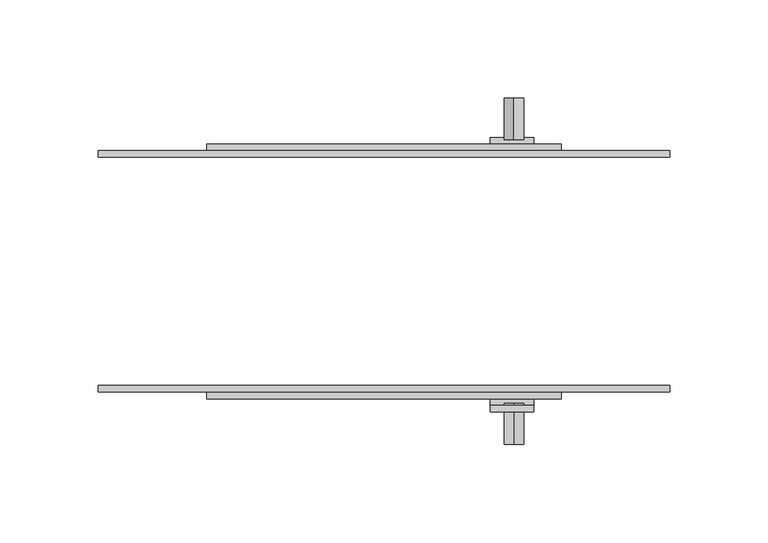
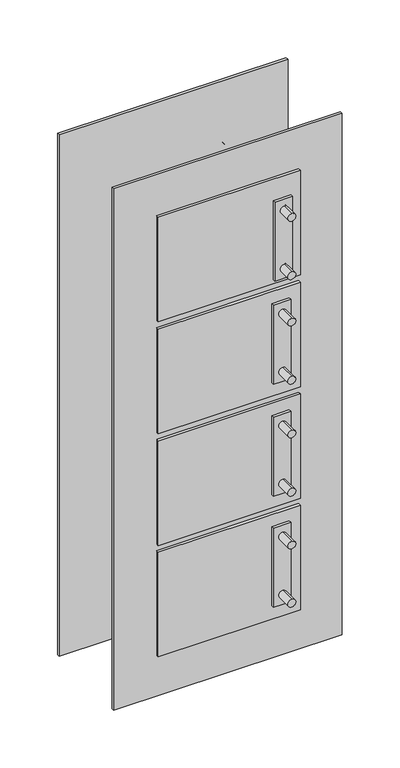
"""IFC4 building model written with IfcOpenShell, lengths in millimetres: proxy geometry, Distribution_Socket_4_rotated : Distribution_Socket_4_rotated."""

from ifc_helpers import new_model, si_unit, point, frame, frame_2d, origin, place, context, project, spatial, polyline, circle_curve, trimmed, segment, composite_curve, outline, extrude, source, transform, mapped, element, save


def electrical_equipment_2ad26752(model_context):
    return source(origin(), model_context, "Body", "SweptSolid", [
        extrude(outline(composite_curve([segment(trimmed(circle_curve(frame_2d((38.3010249, 65.938994)), 5.0), [point((43.3010249, 65.938994))], [point((33.3010249, 65.938994))], False, "CARTESIAN"), True, "CONTINUOUS"), segment(trimmed(circle_curve(frame_2d((38.3010249, 65.938994)), 5.0), [point((33.3010249, 65.938994))], [point((43.3010249, 65.938994))], False, "CARTESIAN"), True, "CONTINUOUS")], self_intersect=False)), frame((0.0, 67.0, 0.0), z_axis=(0.0, 1.0, 0.0), x_axis=(0.0, 0.0, 1.0)), (0.0, 0.0, 1.0), 20.9),
        extrude(outline(composite_curve([segment(trimmed(circle_curve(frame_2d((-39.6946618, 65.938994)), 5.0), [point((-34.6946618, 65.938994))], [point((-44.6946618, 65.938994))], False, "CARTESIAN"), True, "CONTINUOUS"), segment(trimmed(circle_curve(frame_2d((-39.6946618, 65.938994)), 5.0), [point((-44.6946618, 65.938994))], [point((-34.6946618, 65.938994))], False, "CARTESIAN"), True, "CONTINUOUS")], self_intersect=False)), frame((0.0, 67.0, 0.0), z_axis=(0.0, 1.0, 0.0), x_axis=(0.0, 0.0, 1.0)), (0.0, 0.0, 1.0), 20.9),
        extrude(outline(composite_curve([segment(trimmed(circle_curve(frame_2d((-110.4592553, 65.938994)), 5.0), [point((-105.4592553, 65.938994))], [point((-115.4592553, 65.938994))], False, "CARTESIAN"), True, "CONTINUOUS"), segment(trimmed(circle_curve(frame_2d((-110.4592553, 65.938994)), 5.0), [point((-115.4592553, 65.938994))], [point((-105.4592553, 65.938994))], False, "CARTESIAN"), True, "CONTINUOUS")], self_intersect=False)), frame((0.0, 67.0, 0.0), z_axis=(0.0, 1.0, 0.0), x_axis=(0.0, 0.0, 1.0)), (0.0, 0.0, 1.0), 20.9),
        extrude(outline(composite_curve([segment(trimmed(circle_curve(frame_2d((-188.454942, 65.938994)), 5.0), [point((-183.454942, 65.938994))], [point((-193.454942, 65.938994))], False, "CARTESIAN"), True, "CONTINUOUS"), segment(trimmed(circle_curve(frame_2d((-188.454942, 65.938994)), 5.0), [point((-193.454942, 65.938994))], [point((-183.454942, 65.938994))], False, "CARTESIAN"), True, "CONTINUOUS")], self_intersect=False)), frame((0.0, 67.0, 0.0), z_axis=(0.0, 1.0, 0.0), x_axis=(0.0, 0.0, 1.0)), (0.0, 0.0, 1.0), 20.9),
        extrude(outline(composite_curve([segment(trimmed(circle_curve(frame_2d((188.301055, 65.938994)), 5.0), [point((193.301055, 65.938994))], [point((183.301055, 65.938994))], False, "CARTESIAN"), True, "CONTINUOUS"), segment(trimmed(circle_curve(frame_2d((188.301055, 65.938994)), 5.0), [point((183.301055, 65.938994))], [point((193.301055, 65.938994))], False, "CARTESIAN"), True, "CONTINUOUS")], self_intersect=False)), frame((0.0, 67.0, 0.0), z_axis=(0.0, 1.0, 0.0), x_axis=(0.0, 0.0, 1.0)), (0.0, 0.0, 1.0), 20.9),
        extrude(outline(composite_curve([segment(trimmed(circle_curve(frame_2d((110.3053683, 65.938994)), 5.0), [point((115.3053683, 65.938994))], [point((105.3053683, 65.938994))], False, "CARTESIAN"), True, "CONTINUOUS"), segment(trimmed(circle_curve(frame_2d((110.3053683, 65.938994)), 5.0), [point((105.3053683, 65.938994))], [point((115.3053683, 65.938994))], False, "CARTESIAN"), True, "CONTINUOUS")], self_intersect=False)), frame((0.0, 67.0, 0.0), z_axis=(0.0, 1.0, 0.0), x_axis=(0.0, 0.0, 1.0)), (0.0, 0.0, 1.0), 20.9),
        extrude(outline(composite_curve([segment(trimmed(circle_curve(frame_2d((328.4414034, 65.938994)), 5.0), [point((333.4414034, 65.938994))], [point((323.4414034, 65.938994))], False, "CARTESIAN"), True, "CONTINUOUS"), segment(trimmed(circle_curve(frame_2d((328.4414034, 65.938994)), 5.0), [point((323.4414034, 65.938994))], [point((333.4414034, 65.938994))], False, "CARTESIAN"), True, "CONTINUOUS")], self_intersect=False)), frame((0.0, 67.0, 0.0), z_axis=(0.0, 1.0, 0.0), x_axis=(0.0, 0.0, 1.0)), (0.0, 0.0, 1.0), 20.9),
        extrude(outline(composite_curve([segment(trimmed(circle_curve(frame_2d((250.4457168, 65.938994)), 5.0), [point((255.4457168, 65.938994))], [point((245.4457168, 65.938994))], False, "CARTESIAN"), True, "CONTINUOUS"), segment(trimmed(circle_curve(frame_2d((250.4457168, 65.938994)), 5.0), [point((245.4457168, 65.938994))], [point((255.4457168, 65.938994))], False, "CARTESIAN"), True, "CONTINUOUS")], self_intersect=False)), frame((0.0, 67.0, 0.0), z_axis=(0.0, 1.0, 0.0), x_axis=(0.0, 0.0, 1.0)), (0.0, 0.0, 1.0), 20.9),
        extrude(outline(composite_curve([segment(trimmed(circle_curve(frame_2d((38.3010249, 65.938994)), 5.0), [point((43.3010249, 65.938994))], [point((33.3010249, 65.938994))], False, "CARTESIAN"), True, "CONTINUOUS"), segment(trimmed(circle_curve(frame_2d((38.3010249, 65.938994)), 5.0), [point((33.3010249, 65.938994))], [point((43.3010249, 65.938994))], False, "CARTESIAN"), True, "CONTINUOUS")], self_intersect=False)), frame((0.0, -87.9, 0.0), z_axis=(0.0, 1.0, 0.0), x_axis=(0.0, 0.0, 1.0)), (0.0, 0.0, 1.0), 20.9),
        extrude(outline(composite_curve([segment(trimmed(circle_curve(frame_2d((-39.6946618, 65.938994)), 5.0), [point((-34.6946618, 65.938994))], [point((-44.6946618, 65.938994))], False, "CARTESIAN"), True, "CONTINUOUS"), segment(trimmed(circle_curve(frame_2d((-39.6946618, 65.938994)), 5.0), [point((-44.6946618, 65.938994))], [point((-34.6946618, 65.938994))], False, "CARTESIAN"), True, "CONTINUOUS")], self_intersect=False)), frame((0.0, -87.9, 0.0), z_axis=(0.0, 1.0, 0.0), x_axis=(0.0, 0.0, 1.0)), (0.0, 0.0, 1.0), 20.9),
        extrude(outline(composite_curve([segment(trimmed(circle_curve(frame_2d((-110.4592553, 65.938994)), 5.0), [point((-105.4592553, 65.938994))], [point((-115.4592553, 65.938994))], False, "CARTESIAN"), True, "CONTINUOUS"), segment(trimmed(circle_curve(frame_2d((-110.4592553, 65.938994)), 5.0), [point((-115.4592553, 65.938994))], [point((-105.4592553, 65.938994))], False, "CARTESIAN"), True, "CONTINUOUS")], self_intersect=False)), frame((0.0, -87.9, 0.0), z_axis=(0.0, 1.0, 0.0), x_axis=(0.0, 0.0, 1.0)), (0.0, 0.0, 1.0), 20.9),
        extrude(outline(composite_curve([segment(trimmed(circle_curve(frame_2d((-188.454942, 65.938994)), 5.0), [point((-183.454942, 65.938994))], [point((-193.454942, 65.938994))], False, "CARTESIAN"), True, "CONTINUOUS"), segment(trimmed(circle_curve(frame_2d((-188.454942, 65.938994)), 5.0), [point((-193.454942, 65.938994))], [point((-183.454942, 65.938994))], False, "CARTESIAN"), True, "CONTINUOUS")], self_intersect=False)), frame((0.0, -87.9, 0.0), z_axis=(0.0, 1.0, 0.0), x_axis=(0.0, 0.0, 1.0)), (0.0, 0.0, 1.0), 20.9),
        extrude(outline(composite_curve([segment(trimmed(circle_curve(frame_2d((328.4414034, 65.938994)), 5.0), [point((333.4414034, 65.938994))], [point((323.4414034, 65.938994))], False, "CARTESIAN"), True, "CONTINUOUS"), segment(trimmed(circle_curve(frame_2d((328.4414034, 65.938994)), 5.0), [point((323.4414034, 65.938994))], [point((333.4414034, 65.938994))], False, "CARTESIAN"), True, "CONTINUOUS")], self_intersect=False)), frame((0.0, -87.9, 0.0), z_axis=(0.0, 1.0, 0.0), x_axis=(0.0, 0.0, 1.0)), (0.0, 0.0, 1.0), 20.9),
        extrude(outline(composite_curve([segment(trimmed(circle_curve(frame_2d((250.4457168, 65.938994)), 5.0), [point((255.4457168, 65.938994))], [point((245.4457168, 65.938994))], False, "CARTESIAN"), True, "CONTINUOUS"), segment(trimmed(circle_curve(frame_2d((250.4457168, 65.938994)), 5.0), [point((245.4457168, 65.938994))], [point((255.4457168, 65.938994))], False, "CARTESIAN"), True, "CONTINUOUS")], self_intersect=False)), frame((0.0, -87.9, 0.0), z_axis=(0.0, 1.0, 0.0), x_axis=(0.0, 0.0, 1.0)), (0.0, 0.0, 1.0), 20.9),
        extrude(outline(composite_curve([segment(trimmed(circle_curve(frame_2d((188.301055, 65.938994)), 5.0), [point((193.301055, 65.938994))], [point((183.301055, 65.938994))], False, "CARTESIAN"), True, "CONTINUOUS"), segment(trimmed(circle_curve(frame_2d((188.301055, 65.938994)), 5.0), [point((183.301055, 65.938994))], [point((193.301055, 65.938994))], False, "CARTESIAN"), True, "CONTINUOUS")], self_intersect=False)), frame((0.0, -87.9, 0.0), z_axis=(0.0, 1.0, 0.0), x_axis=(0.0, 0.0, 1.0)), (0.0, 0.0, 1.0), 20.9),
        extrude(outline(composite_curve([segment(trimmed(circle_curve(frame_2d((110.3053683, 65.938994)), 5.0), [point((115.3053683, 65.938994))], [point((105.3053683, 65.938994))], False, "CARTESIAN"), True, "CONTINUOUS"), segment(trimmed(circle_curve(frame_2d((110.3053683, 65.938994)), 5.0), [point((105.3053683, 65.938994))], [point((115.3053683, 65.938994))], False, "CARTESIAN"), True, "CONTINUOUS")], self_intersect=False)), frame((0.0, -87.9, 0.0), z_axis=(0.0, 1.0, 0.0), x_axis=(0.0, 0.0, 1.0)), (0.0, 0.0, 1.0), 20.9),
        extrude(outline(polyline([(76.0, 68.1115), (76.0, 64.7409978), (54.0, 64.7409978), (54.0, 68.1115), (76.0, 68.1115)])), frame((0.0, 0.0, -53.0000353), z_axis=(0.0, 0.0, 1.0), x_axis=(1.0, 0.0, 0.0)), (0.0, 0.0, 1.0), 106.0000706),
        extrude(outline(polyline([(76.0, -64.7409978), (76.0, -68.1115), (54.0, -68.1115), (54.0, -64.7409978), (76.0, -64.7409978)])), frame((0.0, 0.0, -53.0000353), z_axis=(0.0, 0.0, 1.0), x_axis=(1.0, 0.0, 0.0)), (0.0, 0.0, 1.0), 106.0000706),
        extrude(outline(polyline([(76.0, 64.741), (76.0, 61.3704978), (54.0, 61.3704978), (54.0, 64.741), (76.0, 64.741)])), frame((0.0, 0.0, 237.1403433), z_axis=(0.0, 0.0, 1.0), x_axis=(1.0, 0.0, 0.0)), (0.0, 0.0, 1.0), 106.0000706),
        extrude(outline(polyline([(76.0, -68.1114978), (76.0, -71.482), (54.0, -71.482), (54.0, -68.1114978), (76.0, -68.1114978)])), frame((0.0, 0.0, 237.1403433), z_axis=(0.0, 0.0, 1.0), x_axis=(1.0, 0.0, 0.0)), (0.0, 0.0, 1.0), 106.0000706),
        extrude(outline(polyline([(76.0, 68.1115), (76.0, 64.7409978), (54.0, 64.7409978), (54.0, 68.1115), (76.0, 68.1115)])), frame((0.0, 0.0, 96.9999949), z_axis=(0.0, 0.0, 1.0), x_axis=(1.0, 0.0, 0.0)), (0.0, 0.0, 1.0), 106.0000706),
        extrude(outline(polyline([(76.0, -64.7409978), (76.0, -68.1115), (54.0, -68.1115), (54.0, -64.7409978), (76.0, -64.7409978)])), frame((0.0, 0.0, 96.9999949), z_axis=(0.0, 0.0, 1.0), x_axis=(1.0, 0.0, 0.0)), (0.0, 0.0, 1.0), 106.0000706),
        extrude(outline(polyline([(76.0, 68.1115), (76.0, 64.7409978), (54.0, 64.7409978), (54.0, 68.1115), (76.0, 68.1115)])), frame((0.0, 0.0, -201.7603155), z_axis=(0.0, 0.0, 1.0), x_axis=(1.0, 0.0, 0.0)), (0.0, 0.0, 1.0), 106.0000706),
        extrude(outline(polyline([(76.0, -64.7409978), (76.0, -68.1115), (54.0, -68.1115), (54.0, -64.7409978), (76.0, -64.7409978)])), frame((0.0, 0.0, -201.7603155), z_axis=(0.0, 0.0, 1.0), x_axis=(1.0, 0.0, 0.0)), (0.0, 0.0, 1.0), 106.0000706),
        extrude(outline(polyline([(90.0, 64.7409978), (90.0, 61.3705), (-90.0, 61.3705), (-90.0, 64.7409978), (90.0, 64.7409978)])), frame((0.0, 0.0, -70.61989), z_axis=(0.0, 0.0, 1.0), x_axis=(1.0, 0.0, 0.0)), (0.0, 0.0, 1.0), 140.0000301),
        extrude(outline(polyline([(90.0, -61.3705004), (90.0, -64.7409978), (-90.0, -64.7409978), (-90.0, -61.3705004), (90.0, -61.3705004)])), frame((0.0, 0.0, -70.61989), z_axis=(0.0, 0.0, 1.0), x_axis=(1.0, 0.0, 0.0)), (0.0, 0.0, 1.0), 140.0000301),
        extrude(outline(polyline([(90.0, 64.7409978), (90.0, 61.3705), (-90.0, 61.3705), (-90.0, 64.7409978), (90.0, 64.7409978)])), frame((0.0, 0.0, -219.3801702), z_axis=(0.0, 0.0, 1.0), x_axis=(1.0, 0.0, 0.0)), (0.0, 0.0, 1.0), 140.0000301),
        extrude(outline(polyline([(90.0, -61.3705004), (90.0, -64.7409978), (-90.0, -64.7409978), (-90.0, -61.3705004), (90.0, -61.3705004)])), frame((0.0, 0.0, -219.3801702), z_axis=(0.0, 0.0, 1.0), x_axis=(1.0, 0.0, 0.0)), (0.0, 0.0, 1.0), 140.0000301),
        extrude(outline(polyline([(90.0, 64.7409978), (90.0, 61.3705), (-90.0, 61.3705), (-90.0, 64.7409978), (90.0, 64.7409978)])), frame((0.0, 0.0, 79.3801401), z_axis=(0.0, 0.0, 1.0), x_axis=(1.0, 0.0, 0.0)), (0.0, 0.0, 1.0), 140.0000301),
        extrude(outline(polyline([(90.0, -61.3705004), (90.0, -64.7409978), (-90.0, -64.7409978), (-90.0, -61.3705004), (90.0, -61.3705004)])), frame((0.0, 0.0, 79.3801401), z_axis=(0.0, 0.0, 1.0), x_axis=(1.0, 0.0, 0.0)), (0.0, 0.0, 1.0), 140.0000301),
        extrude(outline(polyline([(90.0, 64.7409978), (90.0, 61.3705), (-90.0, 61.3705), (-90.0, 64.7409978), (90.0, 64.7409978)])), frame((0.0, 0.0, 229.3801702), z_axis=(0.0, 0.0, 1.0), x_axis=(1.0, 0.0, 0.0)), (0.0, 0.0, 1.0), 140.0000301),
        extrude(outline(polyline([(90.0, -61.3705004), (90.0, -64.7409978), (-90.0, -64.7409978), (-90.0, -61.3705004), (90.0, -61.3705004)])), frame((0.0, 0.0, 229.3801702), z_axis=(0.0, 0.0, 1.0), x_axis=(1.0, 0.0, 0.0)), (0.0, 0.0, 1.0), 140.0000301),
        extrude(outline(polyline([(145.0, 61.3705), (145.0, 58.0), (-145.0, 58.0), (-145.0, 61.3705), (145.0, 61.3705)])), frame((0.0, 0.0, -274.3801702), z_axis=(0.0, 0.0, 1.0), x_axis=(1.0, 0.0, 0.0)), (0.0, 0.0, 1.0), 698.7603706),
        extrude(outline(polyline([(145.0, -58.0), (145.0, -61.3705004), (-145.0, -61.3705004), (-145.0, -58.0), (145.0, -58.0)])), frame((0.0, 0.0, -274.3801702), z_axis=(0.0, 0.0, 1.0), x_axis=(1.0, 0.0, 0.0)), (0.0, 0.0, 1.0), 698.7603706),
    ])


if __name__ == "__main__":
    model = new_model("IFC4")
    model_context = context("Model", 3, world=origin())
    ifc_project = project(units=[si_unit("LENGTHUNIT", "METRE", prefix="MILLI")], contexts=[model_context])
    site = spatial("IfcSite", under=ifc_project)
    building = spatial("IfcBuilding", under=site)
    placement = place(None, origin())
    electrical_equipment_shape = electrical_equipment_2ad26752(model_context)
    element("IfcBuildingElementProxy", 1, Name="Distribution_Socket_4_rotated : Distribution_Socket_4_rotated", ObjectType="Distribution_Socket_4_rotated : Distribution_Socket_4_rotated", at=placement, inside=building, context=model_context, shape_type="MappedRepresentation", body=[
        mapped(electrical_equipment_shape, transform((0.0, 0.0, 0.0), x_axis=(1.0, 0.0, 0.0), y_axis=(0.0, 1.0, 0.0), z_axis=(0.0, 0.0, 1.0))),
    ])
    save(model, "model.ifc")
